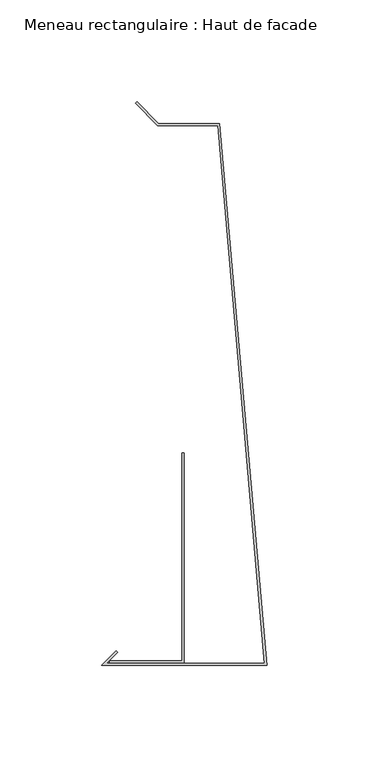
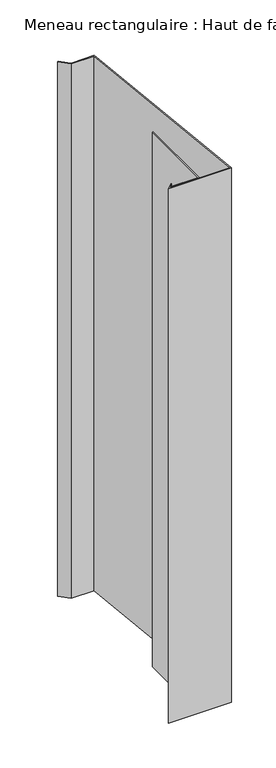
"""IFC4 building model written with IfcOpenShell, lengths in millimetres: member geometry, Meneau rectangulaire : Haut de facade."""

from ifc_helpers import new_model, si_unit, frame, origin, place, context, project, spatial, polyline, outline, extrude, source, transform, mapped, element, save


def meneau_rectangulaire_haut_de_facade_56239176(model_context):
    return source(origin(), model_context, "Body", "SweptSolid", [
        extrude(outline(polyline([(-24.0647895, 160.703755), (-53.5626719, 160.703755), (-64.4621669, 171.6032499), (-63.7550601, 172.3103567), (-53.1484584, 161.703755), (-23.1484584, 161.703755), (0.0, -104.2), (-81.0, -104.2), (-73.9289322, -97.1289322), (-73.2218254, -97.836039), (-78.5857864, -103.2), (-1.0913085, -103.2), (-24.0647895, 160.703755)])), frame((0.0, 0.0, -728.0), z_axis=(0.0, 0.0, 1.0), x_axis=(1.0, 0.0, 0.0)), (0.0, 0.0, 1.0), 728.0),
        extrude(outline(polyline([(-40.5477541, -102.9846816), (-77.0752814, -102.9846816), (-77.0752814, -101.9846816), (-41.5477541, -101.9846816), (-41.5477541, -0.0384227), (-40.5477541, -0.0384227), (-40.5477541, -102.9846816)])), frame((0.0, 0.0, -728.0), z_axis=(0.0, 0.0, 1.0), x_axis=(1.0, 0.0, 0.0)), (0.0, 0.0, 1.0), 728.0),
    ])


if __name__ == "__main__":
    model = new_model("IFC4")
    model_context = context("Model", 3, world=origin())
    ifc_project = project(units=[si_unit("LENGTHUNIT", "METRE", prefix="MILLI")], contexts=[model_context])
    site = spatial("IfcSite", under=ifc_project)
    building = spatial("IfcBuilding", under=site)
    placement = place(None, origin())
    meneau_rectangulaire_haut_de_facade_shape = meneau_rectangulaire_haut_de_facade_56239176(model_context)
    element("IfcMember", 1, ObjectType="Meneau rectangulaire : Haut de facade", at=placement, inside=building, context=model_context, shape_type="MappedRepresentation", body=[
        mapped(meneau_rectangulaire_haut_de_facade_shape, transform((0.0, 0.0, 0.0), x_axis=(1.0, 0.0, 0.0), y_axis=(0.0, 1.0, 0.0), z_axis=(0.0, 0.0, 1.0))),
    ])
    save(model, "model.ifc")
